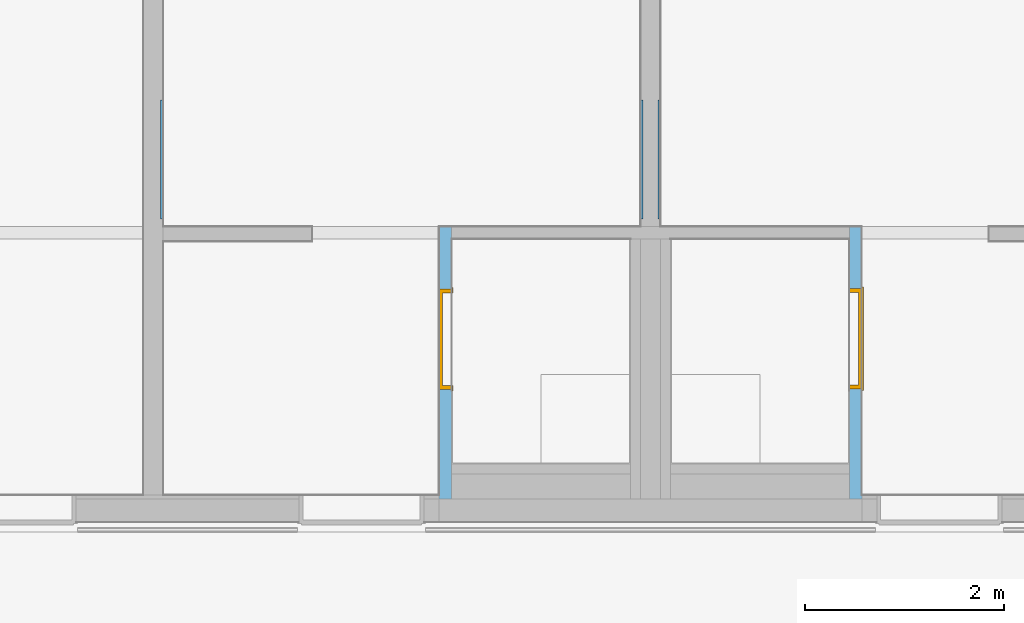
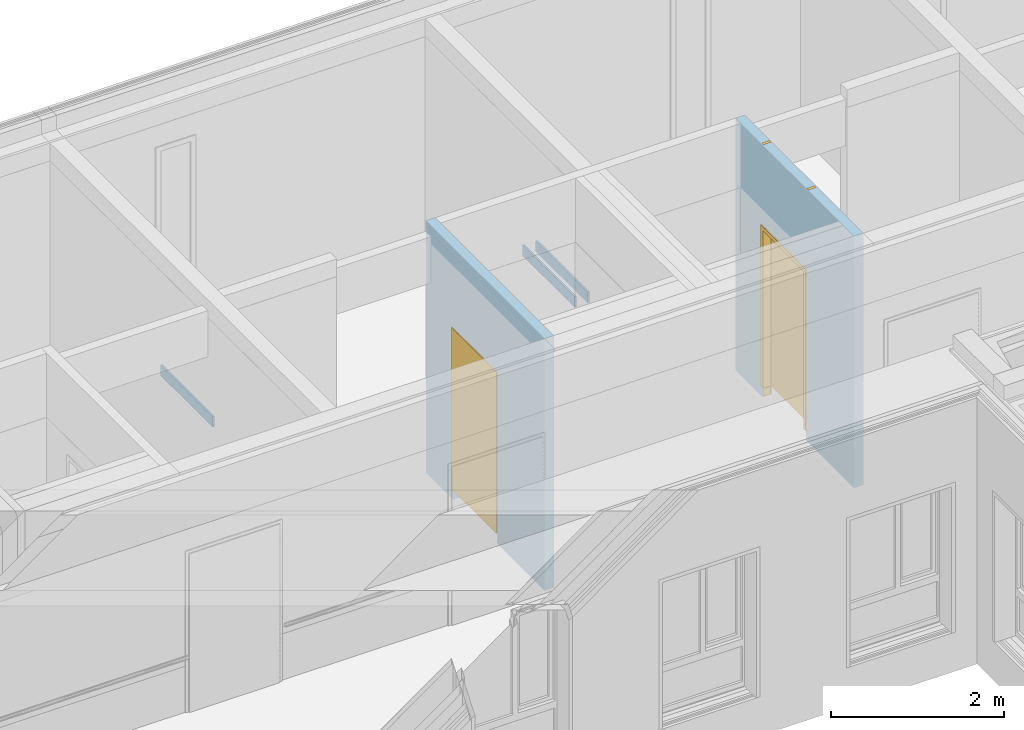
# One storey, part 103 of 222: 3 walls, 2 doors, 2 openings, plus 2 elements that do not belong to this part.
"""IFC4 building model written with IfcOpenShell, lengths in metres."""

import ifcopenshell
import ifcopenshell.guid

model = None  # the IFC model being written
_history = None  # IfcOwnerHistory: only IFC2X3 demands one
_inside = {}  # id of a spatial element -> (the spatial element, [elements in it])
_under = {}  # id of a project, library or spatial element -> (it, [spatial elements below it])
_declared = {}  # id of a project -> (the project, [libraries it declares])
_typed = {}  # id of a type object -> (the type object, [elements of that type])
_made_of = {}  # id of a material, layer set ... -> (it, [elements and type objects made of it])


def new_model(schema):
    """Start an empty IFC model of exactly this schema.

    Asked for "IFC4X3", IfcOpenShell would pick the latest addendum, in which some entities
    have other attributes; the version numbers below select the first issue.
    IFC2X3 requires an IfcOwnerHistory on every rooted entity: one is made here for all.
    """
    global model, _history
    if schema == "IFC4X3":
        model = ifcopenshell.file(schema_version=(4, 3, 0, 0))
    else:
        model = ifcopenshell.file(schema=schema)
    _inside.clear()
    _under.clear()
    _declared.clear()
    _typed.clear()
    _made_of.clear()
    _history = None
    if model.schema == "IFC2X3":
        org = make("IfcOrganization", Name="unknown")
        user = make(
            "IfcPersonAndOrganization",
            ThePerson=make("IfcPerson", FamilyName="unknown"),
            TheOrganization=org,
        )
        app = make(
            "IfcApplication",
            ApplicationDeveloper=org,
            Version="unknown",
            ApplicationFullName="unknown",
            ApplicationIdentifier="unknown",
        )
        _history = make(
            "IfcOwnerHistory",
            OwningUser=user,
            OwningApplication=app,
            ChangeAction="ADDED",
            CreationDate=0,
        )
    return model


def make(cls, **values):
    """One entity of the class cls with the attributes given. An attribute that is None is left unset."""
    return model.create_entity(
        cls, **{name: value for name, value in values.items() if value is not None}
    )


def entity(cls, *values):
    """Any entity or typed value of the class cls, its attributes in the order of the schema. None: left unset."""
    e = model.create_entity(cls)
    for i, value in enumerate(values):
        if value is not None:
            e[i] = value
    return e


def rooted(cls, **values):
    """An entity with a GlobalId (a new one), such as an element, a storey or a relation."""
    return make(cls, GlobalId=ifcopenshell.guid.new(), OwnerHistory=_history, **values)


def si_unit(unit_type, name, prefix=None):
    """IfcSIUnit, for example si_unit("LENGTHUNIT", "METRE", prefix="MILLI")."""
    return make("IfcSIUnit", UnitType=unit_type, Prefix=prefix, Name=name)


def converted_unit(unit_type, name, factor, base, dimensions=None, offset=None):
    """IfcConversionBasedUnit, such as the inch: factor (a typed value) times the base unit."""
    return make(
        "IfcConversionBasedUnit"
        if offset is None
        else "IfcConversionBasedUnitWithOffset",
        ConversionOffset=offset,
        Dimensions=None
        if dimensions is None
        else entity("IfcDimensionalExponents", *dimensions),
        UnitType=unit_type,
        Name=name,
        ConversionFactor=make(
            "IfcMeasureWithUnit", ValueComponent=factor, UnitComponent=base
        ),
    )


def derived_unit(unit_type, elements):
    """IfcDerivedUnit: a product of units, each with its exponent."""
    return make(
        "IfcDerivedUnit",
        Elements=[
            make("IfcDerivedUnitElement", Unit=unit, Exponent=power)
            for unit, power in elements
        ],
        UnitType=unit_type,
    )


def assignment(units):
    """IfcUnitAssignment: the units of a project."""
    return None if units is None else make("IfcUnitAssignment", Units=units)


def point(xyz):
    """IfcCartesianPoint."""
    return None if xyz is None else make("IfcCartesianPoint", Coordinates=xyz)


def direction(xyz):
    """IfcDirection."""
    return None if xyz is None else make("IfcDirection", DirectionRatios=xyz)


def frame(location, z_axis=None, x_axis=None):
    """IfcAxis2Placement3D, a coordinate frame: its origin and axes. An axis left out is left unset."""
    return make(
        "IfcAxis2Placement3D",
        Location=point(location),
        Axis=direction(z_axis),
        RefDirection=direction(x_axis),
    )


def frame_2d(location, x_axis=None):
    """IfcAxis2Placement2D, a coordinate frame in the plane: its origin and x axis."""
    return make(
        "IfcAxis2Placement2D", Location=point(location), RefDirection=direction(x_axis)
    )


def origin():
    """The frame at (0, 0, 0) with its axes left unset."""
    return frame((0.0, 0.0, 0.0))


def origin_with_axes():
    """The frame at (0, 0, 0) with the z axis (0, 0, 1) and the x axis (1, 0, 0) written out."""
    return frame((0.0, 0.0, 0.0), z_axis=(0.0, 0.0, 1.0), x_axis=(1.0, 0.0, 0.0))


def place(relative_to, where):
    """IfcLocalPlacement: puts the frame where relative to a parent placement (None: the world)."""
    return make(
        "IfcLocalPlacement", PlacementRelTo=relative_to, RelativePlacement=where
    )


def context(
    kind, dimensions, precision=None, world=None, true_north=None, identifier=None
):
    """IfcGeometricRepresentationContext, for example the 3D "Model" context."""
    return make(
        "IfcGeometricRepresentationContext",
        ContextIdentifier=identifier,
        ContextType=kind,
        CoordinateSpaceDimension=dimensions,
        Precision=precision,
        WorldCoordinateSystem=world,
        TrueNorth=true_north,
    )


def subcontext(parent, identifier, kind, view, scale=None):
    """IfcGeometricRepresentationSubContext, for example "Body" below "Model"."""
    return make(
        "IfcGeometricRepresentationSubContext",
        ContextIdentifier=identifier,
        ContextType=kind,
        ParentContext=parent,
        TargetScale=scale,
        TargetView=view,
    )


def project(units=None, contexts=None):
    """IfcProject with its units and contexts."""
    return rooted(
        "IfcProject",
        Name="project",
        RepresentationContexts=contexts,
        UnitsInContext=assignment(units),
    )


def spatial(cls, under=None, at=None, **own):
    """A site, building, storey or space (cls), placed at a placement, below another one or the project."""
    s = rooted(cls, ObjectPlacement=at, **own)
    if under is not None:
        _under.setdefault(under.id(), (under, []))[1].append(s)
    return s


def polyline(points):
    """IfcPolyline through the points."""
    return make("IfcPolyline", Points=[point(p) for p in points])


def profile(cls, at=None, kind="AREA", **sizes):
    """A parametric profile (cls). Its sizes go by their IFC names, for example OverallWidth=200.0."""
    return make(cls, ProfileType=kind, Position=at, **sizes)


def rectangle(**sizes):
    """IfcRectangleProfileDef."""
    return profile("IfcRectangleProfileDef", **sizes)


def outline(outer, holes=None, kind="AREA"):
    """IfcArbitraryClosedProfileDef: a profile drawn as a closed curve; with holes, ...WithVoids."""
    if holes is None:
        return make("IfcArbitraryClosedProfileDef", ProfileType=kind, OuterCurve=outer)
    return make(
        "IfcArbitraryProfileDefWithVoids",
        ProfileType=kind,
        OuterCurve=outer,
        InnerCurves=holes,
    )


def extrude(swept, where, along, depth):
    """IfcExtrudedAreaSolid: the profile swept, set in the frame where, extruded along a direction by depth."""
    return make(
        "IfcExtrudedAreaSolid",
        SweptArea=swept,
        Position=where,
        ExtrudedDirection=direction(along),
        Depth=depth,
    )


def faces_of(points, faces, orient=None, outer=None):
    """IfcFace entities. A face is a list of loops; a loop is a list of indices into points, from 0.

    orient and outer hold one flag for each loop. By default every Orientation is true, the
    first loop of a face is its IfcFaceOuterBound and the others are IfcFaceBound.
    """
    made = []
    for i, loops in enumerate(faces):
        bounds = []
        for j, loop in enumerate(loops):
            is_outer = j == 0 if outer is None else outer[i][j]
            bounds.append(
                make(
                    "IfcFaceOuterBound" if is_outer else "IfcFaceBound",
                    Bound=make("IfcPolyLoop", Polygon=[points[k] for k in loop]),
                    Orientation=True if orient is None else orient[i][j],
                )
            )
        made.append(make("IfcFace", Bounds=bounds))
    return made


def faceted_brep(points, faces, orient=None, outer=None, voids=None):
    """IfcFacetedBrep: a solid bounded by flat faces; with voids (closed shells), ...WithVoids."""
    shared = [point(p) for p in points]
    hull = make("IfcClosedShell", CfsFaces=faces_of(shared, faces, orient, outer))
    if voids is None:
        return make("IfcFacetedBrep", Outer=hull)
    return make(
        "IfcFacetedBrepWithVoids",
        Outer=hull,
        Voids=[
            make(cls, CfsFaces=faces_of(shared, fs, o, b)) for cls, fs, o, b in voids
        ],
    )


def shape(context_of_items, identifier, shape_type, items):
    """IfcShapeRepresentation: the items that make up one representation, for example the "Body"."""
    return make(
        "IfcShapeRepresentation",
        ContextOfItems=context_of_items,
        RepresentationIdentifier=identifier,
        RepresentationType=shape_type,
        Items=items,
    )


def source(mapping_origin, context_of_items, identifier, shape_type, items):
    """IfcRepresentationMap: a shape defined once, which mapped items show again and again."""
    return make(
        "IfcRepresentationMap",
        MappingOrigin=mapping_origin,
        MappedRepresentation=shape(context_of_items, identifier, shape_type, items),
    )


def transform(
    local_origin,
    x_axis=None,
    y_axis=None,
    z_axis=None,
    scale=None,
    scale2=None,
    scale3=None,
    uniform=True,
):
    """IfcCartesianTransformationOperator3D, or its non-uniform kind. x_axis, y_axis, z_axis: its Axis1, 2, 3."""
    if uniform:
        return make(
            "IfcCartesianTransformationOperator3D",
            Axis1=direction(x_axis),
            Axis2=direction(y_axis),
            LocalOrigin=point(local_origin),
            Scale=scale,
            Axis3=direction(z_axis),
        )
    return make(
        "IfcCartesianTransformationOperator3DnonUniform",
        Axis1=direction(x_axis),
        Axis2=direction(y_axis),
        LocalOrigin=point(local_origin),
        Scale=scale,
        Axis3=direction(z_axis),
        Scale2=scale2,
        Scale3=scale3,
    )


def mapped(mapping_source, mapping_target):
    """IfcMappedItem: shows the shape of a source again, moved by a transform."""
    return make(
        "IfcMappedItem", MappingSource=mapping_source, MappingTarget=mapping_target
    )


def material(Name=None, Category=None):
    """IfcMaterial."""
    return make("IfcMaterial", Name=Name, Category=Category)


def made_of(thing, what):
    """Note that an element or type object is made of a material, layer set ...; save() writes the relation."""
    if what is not None:
        _made_of.setdefault(what.id(), (what, []))[1].append(thing)
    return thing


def type_object(cls, material=None, **own):
    """A type object (cls), such as IfcWallType, which elements share."""
    return made_of(rooted(cls, **own), material)


def element(
    cls,
    number,
    at=None,
    inside=None,
    cuts=None,
    type_object=None,
    material=None,
    context=None,
    identifier="Body",
    shape_type=None,
    held_by="IfcProductDefinitionShape",
    body=None,
    shapes=None,
    **own,
):
    """One element of the class cls, such as IfcWall. Its Tag is "e" and its number.

    at: its placement. inside: the storey or other place that contains it. cuts: it is an
    opening in that element (IfcRelVoidsElement). A single representation is given by context,
    identifier, shape_type and body (its items); several are given by shapes. held_by: the class
    of the entity that holds the representations. save() writes the other relations.
    """
    e = rooted(cls, Tag="e%d" % number, ObjectPlacement=at, **own)
    if body is not None:
        shapes = [shape(context, identifier, shape_type, body)]
    if shapes is not None:
        e.Representation = make(held_by, Representations=shapes)
    if inside is not None:
        _inside.setdefault(inside.id(), (inside, []))[1].append(e)
    if cuts is not None:
        rooted(
            "IfcRelVoidsElement", RelatingBuildingElement=cuts, RelatedOpeningElement=e
        )
    if type_object is not None:
        _typed.setdefault(type_object.id(), (type_object, []))[1].append(e)
    return made_of(e, material)


def fill(opening, filler):
    """IfcRelFillsElement: the door or window that sits in an opening."""
    return rooted(
        "IfcRelFillsElement",
        RelatingOpeningElement=opening,
        RelatedBuildingElement=filler,
    )


def aggregate(whole, parts):
    """IfcRelAggregates: a whole, such as a stair, and the parts it consists of."""
    return rooted("IfcRelAggregates", RelatingObject=whole, RelatedObjects=parts)


def save(model, path):
    """Write the relations noted so far, then the file.

    IfcRelAggregates (storeys below a building ...), IfcRelContainedInSpatialStructure (elements
    in a storey), IfcRelDefinesByType, IfcRelAssociatesMaterial and IfcRelDeclares: one each for
    every whole, place, type object, material and project.
    """
    for whole, parts in _under.values():
        aggregate(whole, parts)
    for where, things in _inside.values():
        rooted(
            "IfcRelContainedInSpatialStructure",
            RelatedElements=things,
            RelatingStructure=where,
        )
    for kind, things in _typed.values():
        rooted("IfcRelDefinesByType", RelatedObjects=things, RelatingType=kind)
    for what, things in _made_of.values():
        rooted("IfcRelAssociatesMaterial", RelatedObjects=things, RelatingMaterial=what)
    for by, libraries in _declared.values():
        rooted("IfcRelDeclares", RelatingContext=by, RelatedDefinitions=libraries)
    model.write(path)


model = new_model("IFC4")

# Units and contexts
model_context = context("Model", 3, precision=1e-05, world=origin())
body_context = subcontext(model_context, "Body", "Model", "MODEL_VIEW")
ifc_project = project(units=[si_unit("LENGTHUNIT", "METRE"), si_unit("AREAUNIT", "SQUARE_METRE"), si_unit("VOLUMEUNIT", "CUBIC_METRE"), si_unit("MASSUNIT", "GRAM", prefix="KILO"), converted_unit("PLANEANGLEUNIT", "DEGREE", entity("IfcPlaneAngleMeasure", 0.0174532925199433), si_unit("PLANEANGLEUNIT", "RADIAN"), dimensions=[0, 0, 0, 0, 0, 0, 0]), derived_unit("THERMALTRANSMITTANCEUNIT", [(si_unit("POWERUNIT", "WATT"), 1), (si_unit("THERMODYNAMICTEMPERATUREUNIT", "KELVIN"), -1), (si_unit("LENGTHUNIT", "METRE"), -2)]), derived_unit("VOLUMETRICFLOWRATEUNIT", [(si_unit("LENGTHUNIT", "METRE"), 3), (converted_unit("TIMEUNIT", "hour", entity("IfcTimeMeasure", 3600.0), si_unit("TIMEUNIT", "SECOND"), dimensions=[0, 0, 1, 0, 0, 0, 0]), -1), (si_unit("LENGTHUNIT", "METRE"), -1)])], contexts=[model_context])

# Site, building, storey
site_placement = place(None, origin())
site = spatial("IfcSite", under=ifc_project, at=site_placement, Name="Psychiatrie Neubau Wunstorf", CompositionType="ELEMENT")
building_placement = place(site_placement, origin())
building = spatial("IfcBuilding", under=site, at=building_placement, Name="Neubau H2 Stationsgebäude", CompositionType="ELEMENT")
storey_placement = place(building_placement, frame((0.0, 0.0, 3.6)))
storey = spatial("IfcBuildingStorey", under=building, at=storey_placement, Name="H2 Ebene +1", CompositionType="ELEMENT", Elevation=3.6)

# Wall, opening, door
ifc_material_1 = material(Name="WI-LB")
wall_1_placement = place(storey_placement, frame((22.875, 27.0895, 0.0), z_axis=(0.0, 0.0, 1.0), x_axis=(0.0, -1.0, 0.0)))
wall_1 = element("IfcWall", 1, at=wall_1_placement, inside=storey, material=ifc_material_1, context=body_context, shape_type="SweptSolid", body=[
    extrude(rectangle(XDim=2.73999999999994, YDim=0.125, at=frame_2d((1.36999999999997, 0.0625), x_axis=(1.0, 0.0))), origin_with_axes(), (0.0, 0.0, 1.0), 3.55),
])
opening_1_placement = place(wall_1_placement, frame((1.63849633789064, 0.125, 0.0), z_axis=(0.0, -1.0, 0.0), x_axis=(0.0, 0.0, 1.0)))
opening_1 = element("IfcOpeningElement", 2, at=opening_1_placement, cuts=wall_1, Name="Türöffnung", ObjectType="Opening", context=body_context, shape_type="SweptSolid", body=[
    extrude(outline(polyline([(2.41, 1.01), (2.41, 0.0), (0.0, 0.0), (0.0, 1.01), (2.41, 1.01)])), origin_with_axes(), (0.0, 0.0, 1.0), 0.125),
])
ifc_material_2 = material(Name="TI-1F-UZ-D-N")
door_type_1 = type_object("IfcDoorType", Name="SMT", OperationType="SINGLE_SWING_RIGHT", ParameterTakesPrecedence=False, PredefinedType="DOOR")
shared_shape_1 = source(origin_with_axes(), body_context, "Body", "Brep", [
    faceted_brep([(1.04999999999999, 0.0125000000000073, 0.0), (1.04999999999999, 0.112500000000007, 0.0), (1.00999999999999, 0.112500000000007, 0.0), (1.00999999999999, 0.0125000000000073, 0.0), (1.04999999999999, 0.112500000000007, 3.55), (1.04999999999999, 0.0125000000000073, 3.55), (1.00999999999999, 0.0125000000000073, 3.55), (1.00999999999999, 0.112500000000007, 3.55)], [[[0, 1, 2, 3]], [[4, 5, 6, 7]], [[1, 0, 5, 4]], [[2, 1, 4, 7]], [[3, 2, 7, 6]], [[0, 3, 6, 5]]], orient=[[False], [False], [False], [False], [False], [False]]),
    faceted_brep([(0.0, 0.0125000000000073, 0.0), (0.0, 0.112500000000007, 0.0), (-0.0400000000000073, 0.112500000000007, 0.0), (-0.0400000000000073, 0.0125000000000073, 0.0), (0.0, 0.112500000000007, 3.55), (0.0, 0.0125000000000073, 3.55), (-0.0400000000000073, 0.0125000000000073, 3.55), (-0.0400000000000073, 0.112500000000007, 3.55)], [[[0, 1, 2, 3]], [[4, 5, 6, 7]], [[1, 0, 5, 4]], [[2, 1, 4, 7]], [[3, 2, 7, 6]], [[0, 3, 6, 5]]], orient=[[False], [False], [False], [False], [False], [False]]),
    faceted_brep([(1.00999999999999, 0.0125000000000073, 2.41), (1.00999999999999, 0.112500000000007, 2.41), (0.0, 0.112500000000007, 2.41), (0.0, 0.0125000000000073, 2.41), (1.00999999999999, 0.112500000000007, 2.45), (1.00999999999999, 0.0125000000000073, 2.45), (0.0, 0.0125000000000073, 2.45), (0.0, 0.112500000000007, 2.45)], [[[0, 1, 2, 3]], [[4, 5, 6, 7]], [[1, 0, 5, 4]], [[2, 1, 4, 7]], [[3, 2, 7, 6]], [[0, 3, 6, 5]]], orient=[[False], [False], [False], [False], [False], [False]]),
])
shared_shape_2 = source(origin_with_axes(), body_context, "Body", "Brep", [
    faceted_brep([(0.0, -0.0149999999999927, 2.41), (0.0399999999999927, -0.0149999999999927, 2.41), (0.0399999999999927, -0.0149999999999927, 0.15), (0.0, -0.0149999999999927, 0.15), (0.0, 0.140000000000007, 0.15), (0.0399999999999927, 0.140000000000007, 0.15), (0.0399999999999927, 0.140000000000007, 2.41), (0.0, 0.140000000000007, 2.41)], [[[0, 1, 2, 3]], [[4, 5, 6, 7]], [[3, 4, 7, 0]], [[2, 5, 4, 3]], [[1, 6, 5, 2]], [[0, 7, 6, 1]]], orient=[[False], [False], [False], [False], [False], [False]]),
    faceted_brep([(0.0, -0.0149999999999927, 2.425), (0.0, -0.0149999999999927, 0.15), (-0.0150000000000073, -0.0149999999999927, 0.15), (-0.0150000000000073, -0.0149999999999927, 2.425), (0.0, 0.0, 0.15), (0.0, 0.0, 2.425), (-0.0150000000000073, 0.0, 2.425), (-0.0150000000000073, 0.0, 0.15)], [[[0, 1, 2, 3]], [[4, 5, 6, 7]], [[1, 0, 5, 4]], [[2, 1, 4, 7]], [[3, 2, 7, 6]], [[0, 3, 6, 5]]], orient=[[False], [False], [False], [False], [False], [False]]),
    faceted_brep([(0.0, 0.125000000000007, 2.425), (0.0, 0.125000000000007, 0.15), (-0.0150000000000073, 0.125000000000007, 0.15), (-0.0150000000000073, 0.125000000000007, 2.425), (0.0, 0.140000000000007, 0.15), (0.0, 0.140000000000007, 2.425), (-0.0150000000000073, 0.140000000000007, 2.425), (-0.0150000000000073, 0.140000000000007, 0.15)], [[[0, 1, 2, 3]], [[4, 5, 6, 7]], [[1, 0, 5, 4]], [[2, 1, 4, 7]], [[3, 2, 7, 6]], [[0, 3, 6, 5]]], orient=[[False], [False], [False], [False], [False], [False]]),
    faceted_brep([(0.969999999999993, -0.0149999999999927, 2.41), (1.00999999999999, -0.0149999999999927, 2.41), (1.00999999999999, -0.0149999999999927, 0.15), (0.969999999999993, -0.0149999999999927, 0.15), (0.969999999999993, 0.140000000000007, 0.15), (1.00999999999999, 0.140000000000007, 0.15), (1.00999999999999, 0.140000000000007, 2.41), (0.969999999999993, 0.140000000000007, 2.41)], [[[0, 1, 2, 3]], [[4, 5, 6, 7]], [[3, 4, 7, 0]], [[2, 5, 4, 3]], [[1, 6, 5, 2]], [[0, 7, 6, 1]]], orient=[[False], [False], [False], [False], [False], [False]]),
    faceted_brep([(1.00999999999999, -0.0149999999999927, 2.425), (1.02499999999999, -0.0149999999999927, 2.425), (1.02499999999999, -0.0149999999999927, 0.15), (1.00999999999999, -0.0149999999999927, 0.15), (1.00999999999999, 0.0, 0.15), (1.02499999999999, 0.0, 0.15), (1.02499999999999, 0.0, 2.425), (1.00999999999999, 0.0, 2.425)], [[[0, 1, 2, 3]], [[4, 5, 6, 7]], [[3, 4, 7, 0]], [[2, 5, 4, 3]], [[1, 6, 5, 2]], [[0, 7, 6, 1]]], orient=[[False], [False], [False], [False], [False], [False]]),
    faceted_brep([(1.00999999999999, 0.125000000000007, 2.425), (1.02499999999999, 0.125000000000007, 2.425), (1.02499999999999, 0.125000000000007, 0.15), (1.00999999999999, 0.125000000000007, 0.15), (1.00999999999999, 0.140000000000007, 0.15), (1.02499999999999, 0.140000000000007, 0.15), (1.02499999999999, 0.140000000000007, 2.425), (1.00999999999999, 0.140000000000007, 2.425)], [[[0, 1, 2, 3]], [[4, 5, 6, 7]], [[3, 4, 7, 0]], [[2, 5, 4, 3]], [[1, 6, 5, 2]], [[0, 7, 6, 1]]], orient=[[False], [False], [False], [False], [False], [False]]),
    faceted_brep([(0.0399999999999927, -0.0149999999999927, 2.41), (0.969999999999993, -0.0149999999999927, 2.41), (0.969999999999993, -0.0149999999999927, 2.37), (0.0399999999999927, -0.0149999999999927, 2.37), (0.0399999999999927, 0.140000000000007, 2.37), (0.969999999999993, 0.140000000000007, 2.37), (0.969999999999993, 0.140000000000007, 2.41), (0.0399999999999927, 0.140000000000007, 2.41)], [[[0, 1, 2, 3]], [[4, 5, 6, 7]], [[3, 4, 7, 0]], [[2, 5, 4, 3]], [[1, 6, 5, 2]], [[0, 7, 6, 1]]], orient=[[False], [False], [False], [False], [False], [False]]),
    faceted_brep([(0.0, -0.0149999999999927, 2.425), (1.00999999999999, -0.0149999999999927, 2.425), (1.00999999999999, -0.0149999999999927, 2.41), (0.0, -0.0149999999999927, 2.41), (0.0, 0.0, 2.41), (1.00999999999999, 0.0, 2.41), (1.00999999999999, 0.0, 2.425), (0.0, 0.0, 2.425)], [[[0, 1, 2, 3]], [[4, 5, 6, 7]], [[3, 4, 7, 0]], [[2, 5, 4, 3]], [[1, 6, 5, 2]], [[0, 7, 6, 1]]], orient=[[False], [False], [False], [False], [False], [False]]),
    faceted_brep([(0.0, 0.125000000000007, 2.425), (1.00999999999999, 0.125000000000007, 2.425), (1.00999999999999, 0.125000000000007, 2.41), (0.0, 0.125000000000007, 2.41), (0.0, 0.140000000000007, 2.41), (1.00999999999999, 0.140000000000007, 2.41), (1.00999999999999, 0.140000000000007, 2.425), (0.0, 0.140000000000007, 2.425)], [[[0, 1, 2, 3]], [[4, 5, 6, 7]], [[3, 4, 7, 0]], [[2, 5, 4, 3]], [[1, 6, 5, 2]], [[0, 7, 6, 1]]], orient=[[False], [False], [False], [False], [False], [False]]),
    faceted_brep([(0.0249999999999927, 0.0910000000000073, 2.385), (0.984999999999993, 0.0910000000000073, 2.385), (0.984999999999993, 0.0910000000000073, 0.15), (0.0249999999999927, 0.0910000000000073, 0.15), (0.0249999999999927, 0.141000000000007, 0.15), (0.984999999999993, 0.141000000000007, 0.15), (0.984999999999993, 0.141000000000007, 2.385), (0.0249999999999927, 0.141000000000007, 2.385)], [[[0, 1, 2, 3]], [[4, 5, 6, 7]], [[3, 4, 7, 0]], [[2, 5, 4, 3]], [[1, 6, 5, 2]], [[0, 7, 6, 1]]], orient=[[False], [False], [False], [False], [False], [False]]),
])
door_1_placement = place(opening_1_placement, frame((0.0, 0.0, 0.0), z_axis=(1.0, 0.0, 0.0), x_axis=(0.0, 1.0, 0.0)))
door_1 = element("IfcDoor", 3, at=door_1_placement, inside=storey, type_object=door_type_1, material=ifc_material_2, Name="SMT", OverallHeight=2.41, OverallWidth=1.01, context=body_context, shape_type="MappedRepresentation", body=[
    mapped(shared_shape_1, transform((0.0, 0.0, 0.0), x_axis=(1.0, 0.0, 0.0), y_axis=(0.0, 1.0, 0.0), z_axis=(0.0, 0.0, 1.0), scale=1.0)),
    mapped(shared_shape_2, transform((0.0, 0.0, 0.0), x_axis=(1.0, 0.0, 0.0), y_axis=(0.0, 1.0, 0.0), z_axis=(0.0, 0.0, 1.0), scale=1.0)),
])
fill(opening_1, door_1)

ifc_material_3 = material(Name="WI-LB")
wall_2_placement = place(storey_placement, frame((27.0, 27.0895, 0.0), z_axis=(0.0, 0.0, 1.0), x_axis=(0.0, -1.0, 0.0)))
wall_2 = element("IfcWall", 4, at=wall_2_placement, inside=storey, material=ifc_material_3, context=body_context, shape_type="SweptSolid", body=[
    extrude(rectangle(XDim=2.74, YDim=0.125, at=frame_2d((1.37, 0.0625), x_axis=(1.0, 0.0))), origin_with_axes(), (0.0, 0.0, 1.0), 3.55),
])
opening_2_placement = place(wall_2_placement, frame((0.625000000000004, 0.0, 0.0), z_axis=(0.0, 1.0, 0.0), x_axis=(0.0, 0.0, 1.0)))
opening_2 = element("IfcOpeningElement", 5, at=opening_2_placement, cuts=wall_2, Name="Türöffnung", ObjectType="Opening", context=body_context, shape_type="SweptSolid", body=[
    extrude(outline(polyline([(2.41, 1.01), (2.41, 0.0), (0.0, 0.0), (0.0, 1.01), (2.41, 1.01)])), origin_with_axes(), (0.0, 0.0, 1.0), 0.125),
])
ifc_material_4 = material(Name="TI-1F-UZ-D-N")
door_type_2 = type_object("IfcDoorType", Name="SMT", OperationType="SINGLE_SWING_RIGHT", ParameterTakesPrecedence=False, PredefinedType="DOOR")
shared_shape_3 = source(origin_with_axes(), body_context, "Body", "Brep", [
    faceted_brep([(1.05000000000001, 0.0124999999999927, 0.0), (1.05000000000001, 0.112499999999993, 0.0), (1.01000000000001, 0.112499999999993, 0.0), (1.01000000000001, 0.0124999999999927, 0.0), (1.05000000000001, 0.112499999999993, 3.55), (1.05000000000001, 0.0124999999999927, 3.55), (1.01000000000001, 0.0124999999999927, 3.55), (1.01000000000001, 0.112499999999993, 3.55)], [[[0, 1, 2, 3]], [[4, 5, 6, 7]], [[1, 0, 5, 4]], [[2, 1, 4, 7]], [[3, 2, 7, 6]], [[0, 3, 6, 5]]], orient=[[False], [False], [False], [False], [False], [False]]),
    faceted_brep([(0.0, 0.0124999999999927, 0.0), (0.0, 0.112499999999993, 0.0), (-0.0399999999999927, 0.112499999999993, 0.0), (-0.0399999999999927, 0.0124999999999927, 0.0), (0.0, 0.112499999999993, 3.55), (0.0, 0.0124999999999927, 3.55), (-0.0399999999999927, 0.0124999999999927, 3.55), (-0.0399999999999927, 0.112499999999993, 3.55)], [[[0, 1, 2, 3]], [[4, 5, 6, 7]], [[1, 0, 5, 4]], [[2, 1, 4, 7]], [[3, 2, 7, 6]], [[0, 3, 6, 5]]], orient=[[False], [False], [False], [False], [False], [False]]),
    faceted_brep([(1.01000000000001, 0.0124999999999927, 2.41), (1.01000000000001, 0.112499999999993, 2.41), (0.0, 0.112499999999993, 2.41), (0.0, 0.0124999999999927, 2.41), (1.01000000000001, 0.112499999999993, 2.45), (1.01000000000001, 0.0124999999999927, 2.45), (0.0, 0.0124999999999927, 2.45), (0.0, 0.112499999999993, 2.45)], [[[0, 1, 2, 3]], [[4, 5, 6, 7]], [[1, 0, 5, 4]], [[2, 1, 4, 7]], [[3, 2, 7, 6]], [[0, 3, 6, 5]]], orient=[[False], [False], [False], [False], [False], [False]]),
])
shared_shape_4 = source(origin_with_axes(), body_context, "Body", "Brep", [
    faceted_brep([(1.01000000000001, -0.0150000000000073, 2.41), (1.01000000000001, -0.0150000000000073, 0.15), (0.970000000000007, -0.0150000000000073, 0.15), (0.970000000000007, -0.0150000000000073, 2.41), (1.01000000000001, 0.139999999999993, 0.15), (1.01000000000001, 0.139999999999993, 2.41), (0.970000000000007, 0.139999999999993, 2.41), (0.970000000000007, 0.139999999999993, 0.15)], [[[0, 1, 2, 3]], [[4, 5, 6, 7]], [[1, 0, 5, 4]], [[2, 1, 4, 7]], [[3, 2, 7, 6]], [[0, 3, 6, 5]]], orient=[[False], [False], [False], [False], [False], [False]]),
    faceted_brep([(1.01000000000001, -0.0150000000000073, 2.425), (1.02500000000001, -0.0150000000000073, 2.425), (1.02500000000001, -0.0150000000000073, 0.15), (1.01000000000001, -0.0150000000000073, 0.15), (1.01000000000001, 0.0, 0.15), (1.02500000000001, 0.0, 0.15), (1.02500000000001, 0.0, 2.425), (1.01000000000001, 0.0, 2.425)], [[[0, 1, 2, 3]], [[4, 5, 6, 7]], [[3, 4, 7, 0]], [[2, 5, 4, 3]], [[1, 6, 5, 2]], [[0, 7, 6, 1]]], orient=[[False], [False], [False], [False], [False], [False]]),
    faceted_brep([(1.01000000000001, 0.124999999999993, 2.425), (1.02500000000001, 0.124999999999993, 2.425), (1.02500000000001, 0.124999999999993, 0.15), (1.01000000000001, 0.124999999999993, 0.15), (1.01000000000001, 0.139999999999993, 0.15), (1.02500000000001, 0.139999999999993, 0.15), (1.02500000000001, 0.139999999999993, 2.425), (1.01000000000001, 0.139999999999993, 2.425)], [[[0, 1, 2, 3]], [[4, 5, 6, 7]], [[3, 4, 7, 0]], [[2, 5, 4, 3]], [[1, 6, 5, 2]], [[0, 7, 6, 1]]], orient=[[False], [False], [False], [False], [False], [False]]),
    faceted_brep([(0.0400000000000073, -0.0150000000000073, 2.41), (0.0400000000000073, -0.0150000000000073, 0.15), (0.0, -0.0150000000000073, 0.15), (0.0, -0.0150000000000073, 2.41), (0.0400000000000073, 0.139999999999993, 0.15), (0.0400000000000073, 0.139999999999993, 2.41), (0.0, 0.139999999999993, 2.41), (0.0, 0.139999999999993, 0.15)], [[[0, 1, 2, 3]], [[4, 5, 6, 7]], [[1, 0, 5, 4]], [[2, 1, 4, 7]], [[3, 2, 7, 6]], [[0, 3, 6, 5]]], orient=[[False], [False], [False], [False], [False], [False]]),
    faceted_brep([(0.0, -0.0150000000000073, 2.425), (0.0, -0.0150000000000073, 0.15), (-0.0149999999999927, -0.0150000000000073, 0.15), (-0.0149999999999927, -0.0150000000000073, 2.425), (0.0, 0.0, 0.15), (0.0, 0.0, 2.425), (-0.0149999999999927, 0.0, 2.425), (-0.0149999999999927, 0.0, 0.15)], [[[0, 1, 2, 3]], [[4, 5, 6, 7]], [[1, 0, 5, 4]], [[2, 1, 4, 7]], [[3, 2, 7, 6]], [[0, 3, 6, 5]]], orient=[[False], [False], [False], [False], [False], [False]]),
    faceted_brep([(0.0, 0.124999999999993, 2.425), (0.0, 0.124999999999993, 0.15), (-0.0149999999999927, 0.124999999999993, 0.15), (-0.0149999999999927, 0.124999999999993, 2.425), (0.0, 0.139999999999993, 0.15), (0.0, 0.139999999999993, 2.425), (-0.0149999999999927, 0.139999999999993, 2.425), (-0.0149999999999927, 0.139999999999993, 0.15)], [[[0, 1, 2, 3]], [[4, 5, 6, 7]], [[1, 0, 5, 4]], [[2, 1, 4, 7]], [[3, 2, 7, 6]], [[0, 3, 6, 5]]], orient=[[False], [False], [False], [False], [False], [False]]),
    faceted_brep([(0.970000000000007, -0.0150000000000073, 2.41), (0.970000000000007, -0.0150000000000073, 2.37), (0.0400000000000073, -0.0150000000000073, 2.37), (0.0400000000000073, -0.0150000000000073, 2.41), (0.970000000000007, 0.139999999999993, 2.37), (0.970000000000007, 0.139999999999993, 2.41), (0.0400000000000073, 0.139999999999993, 2.41), (0.0400000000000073, 0.139999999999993, 2.37)], [[[0, 1, 2, 3]], [[4, 5, 6, 7]], [[1, 0, 5, 4]], [[2, 1, 4, 7]], [[3, 2, 7, 6]], [[0, 3, 6, 5]]], orient=[[False], [False], [False], [False], [False], [False]]),
    faceted_brep([(1.01000000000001, -0.0150000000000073, 2.425), (1.01000000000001, -0.0150000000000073, 2.41), (0.0, -0.0150000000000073, 2.41), (0.0, -0.0150000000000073, 2.425), (1.01000000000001, 0.0, 2.41), (1.01000000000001, 0.0, 2.425), (0.0, 0.0, 2.425), (0.0, 0.0, 2.41)], [[[0, 1, 2, 3]], [[4, 5, 6, 7]], [[1, 0, 5, 4]], [[2, 1, 4, 7]], [[3, 2, 7, 6]], [[0, 3, 6, 5]]], orient=[[False], [False], [False], [False], [False], [False]]),
    faceted_brep([(1.01000000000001, 0.124999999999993, 2.425), (1.01000000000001, 0.124999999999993, 2.41), (0.0, 0.124999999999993, 2.41), (0.0, 0.124999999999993, 2.425), (1.01000000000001, 0.139999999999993, 2.41), (1.01000000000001, 0.139999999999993, 2.425), (0.0, 0.139999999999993, 2.425), (0.0, 0.139999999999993, 2.41)], [[[0, 1, 2, 3]], [[4, 5, 6, 7]], [[1, 0, 5, 4]], [[2, 1, 4, 7]], [[3, 2, 7, 6]], [[0, 3, 6, 5]]], orient=[[False], [False], [False], [False], [False], [False]]),
    faceted_brep([(0.985000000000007, 0.0909999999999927, 2.385), (0.985000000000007, 0.0909999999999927, 0.15), (0.0250000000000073, 0.0909999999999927, 0.15), (0.0250000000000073, 0.0909999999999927, 2.385), (0.985000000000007, 0.140999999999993, 0.15), (0.985000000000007, 0.140999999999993, 2.385), (0.0250000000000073, 0.140999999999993, 2.385), (0.0250000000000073, 0.140999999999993, 0.15)], [[[0, 1, 2, 3]], [[4, 5, 6, 7]], [[1, 0, 5, 4]], [[2, 1, 4, 7]], [[3, 2, 7, 6]], [[0, 3, 6, 5]]], orient=[[False], [False], [False], [False], [False], [False]]),
])
door_2_placement = place(opening_2_placement, frame((0.0, 0.0, 0.0), z_axis=(1.0, 0.0, 0.0), x_axis=(0.0, 1.0, 0.0)))
door_2 = element("IfcDoor", 6, at=door_2_placement, inside=storey, type_object=door_type_2, material=ifc_material_4, Name="SMT", OverallHeight=2.41, OverallWidth=1.01, context=body_context, shape_type="MappedRepresentation", body=[
    mapped(shared_shape_3, transform((0.0, 0.0, 0.0), x_axis=(1.0, 0.0, 0.0), y_axis=(0.0, 1.0, 0.0), z_axis=(0.0, 0.0, 1.0), scale=1.0)),
    mapped(shared_shape_4, transform((0.0, 0.0, 0.0), x_axis=(1.0, 0.0, 0.0), y_axis=(0.0, 1.0, 0.0), z_axis=(0.0, 0.0, 1.0), scale=1.0)),
])
fill(opening_2, door_2)

# Walls
for number, where, name in (
    (7, (20.075, 27.1628367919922, 1.575), "WV 1.1"),
    (8, (24.9, 27.1628367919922, 1.575), "WV 1.1"),
    (9, (25.075, 27.1628367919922, 1.575), "WV 1.1"),
):
    element("IfcWall", number, at=place(storey_placement, frame(where)), inside=storey, Name=name, context=body_context, shape_type="Brep", body=[
        faceted_brep([(0.025, 1.2, 0.0), (0.0, 1.2, 0.0), (0.0, 0.0, 0.0), (0.025, 0.0, 0.0), (0.0, 1.2, 0.15), (0.025, 1.2, 0.15), (0.025, 0.0, 0.15), (0.0, 0.0, 0.15)], [[[0, 1, 2, 3]], [[4, 5, 6, 7]], [[1, 0, 5, 4]], [[2, 1, 4, 7]], [[3, 2, 7, 6]], [[0, 3, 6, 5]]], orient=[[False], [False], [False], [False], [False], [False]]),
    ])

save(model, "model.ifc")
